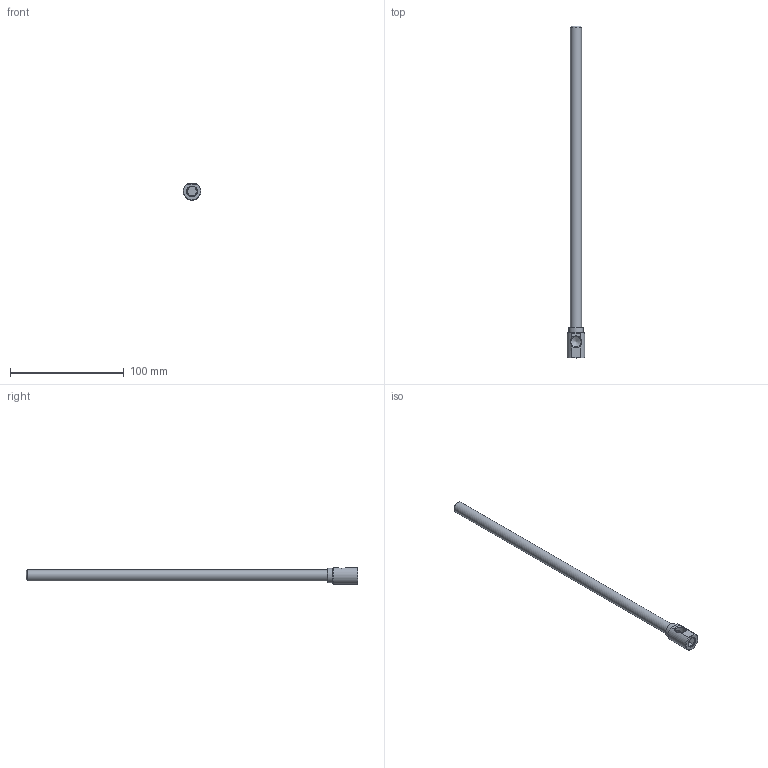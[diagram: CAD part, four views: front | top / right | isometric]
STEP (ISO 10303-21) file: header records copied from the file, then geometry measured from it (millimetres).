
FILE_DESCRIPTION(/* description */ (''),/* implementation_level */ '2;1');
FILE_NAME(/* name */ 'C:/Users/drich/Desktop/EKL18 X 11.5 v2.step',/* time_stamp */ '2019-11-18T14:40:29-06:00',/* author */ (''),/* organization */ (''),/* preprocessor_version */ 'ST-DEVELOPER v18',/* originating_system */ 'Autodesk Translation Framework v8.12.0.6',/* authorisation */ '');
FILE_SCHEMA (('AUTOMOTIVE_DESIGN { 1 0 10303 214 3 1 1 }'));
Length unit declared in the file: inch
Products named in the file (2): EKL18 X 11.5; EKL18 X 11-1/2
Assembly tree (1 placements, depth 2):
  EKL18 X 11.5
    EKL18 X 11-1/2
Bounding box: 15.49 x 292.1 x 14.48 mm (x, y, z)
Volume: 14788.8 mm3; surface area: 15670.9 mm2
Topology: 1 solids, 1 shells, 30 faces, 80 edges, 55 vertices
Faces by surface type: plane 16, cone 8, cylinder 6
Full cylindrical faces by diameter (mm): 6.35 x1, 9.004 x1, 9.398 x1, 9.794 x1, 12.7 x1
Entity records: 1047 total; most frequent: CARTESIAN_POINT 256, ORIENTED_EDGE 158, DIRECTION 151, EDGE_CURVE 79, AXIS2_PLACEMENT_3D 60, VERTEX_POINT 55, EDGE_LOOP 36, LINE 31
